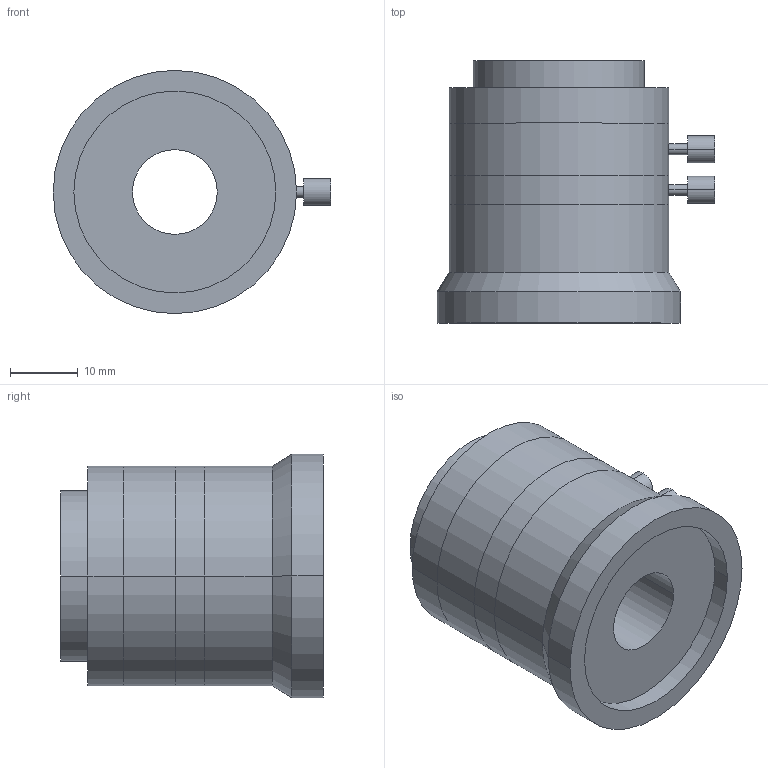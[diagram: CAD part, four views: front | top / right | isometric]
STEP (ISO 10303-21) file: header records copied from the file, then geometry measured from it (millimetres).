
FILE_DESCRIPTION (( 'STEP AP203' ), '1' );
FILE_NAME ('GMHR-0814MCN.STEP', '2019-10-24T05:58:43', ( '' ), ( '' ), 'SwSTEP 2.0', 'SolidWorks 2018', '' );
FILE_SCHEMA (( 'CONFIG_CONTROL_DESIGN' ));
Length unit declared in the file: millimetre
Products named in the file (1): GMHR-0814MCN
Bounding box: 40.95 x 38.7 x 35.9 mm (x, y, z)
Volume: 25254 mm3; surface area: 7717.5 mm2
Topology: 3 solids, 3 shells, 42 faces, 80 edges, 50 vertices
Faces by surface type: cylinder 28, plane 12, cone 2
Entity records: 1151 total; most frequent: DIRECTION 216, CARTESIAN_POINT 173, ORIENTED_EDGE 160, AXIS2_PLACEMENT_3D 93, EDGE_CURVE 80, VERTEX_POINT 50, EDGE_LOOP 50, CIRCLE 50
